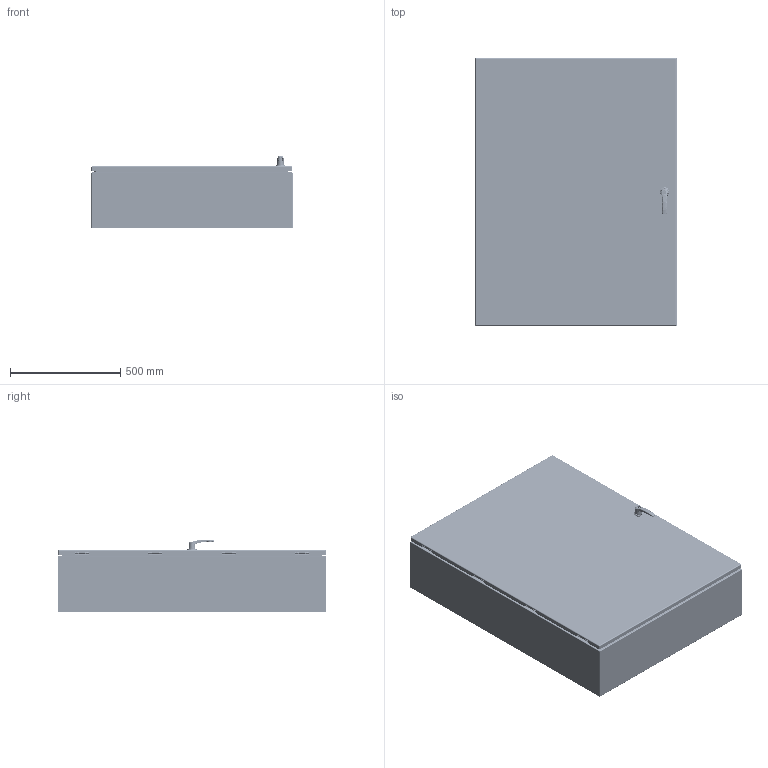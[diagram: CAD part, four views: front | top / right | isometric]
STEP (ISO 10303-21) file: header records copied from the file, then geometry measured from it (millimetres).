
FILE_DESCRIPTION(/* description */ ('5412ES 48" x 36" x 10" Assembly'),/* implementation_level */ '2;1');
FILE_NAME(/* name */ 'C:\Vault_Workspace\Inventor_Dwg\BoxCad\Result\5412ESB483610\e-mail\3D\5412ESB483610.stp',/* time_stamp */ '2022-03-23T15:52:56-04:00',/* author */ ('BoxCad'),/* organization */ (''),/* preprocessor_version */ 'ST-DEVELOPER v18.1',/* originating_system */ 'Autodesk Inventor 2020',/* authorisation */ '');
FILE_SCHEMA (('AUTOMOTIVE_DESIGN { 1 0 10303 214 3 1 1 }'));
Products named in the file (61): 5412ESB483610; 5412ESB483610B; 5412ESB483610B-P; STK-Q-16005; STUD_M6 x 16mm; STK-Q-07610; 881SP4836G; 881SP4836G-P; STK-Q-07310; 5412ESB483610C; 5412ESB483610C-P; 5412ESB483610G; STK-K-09800; STK-K-09800-2; STK-K-09800-3; STK-K-09800-4; STK-Q-33014; STK-Q-90398; STK-Q-40095; STK-Q-63410; STK-Q-16405; STK-Q-46020-48; STK-Q-46025-36-3; STK-Q-07220-1; STK-Q-07220-2; STK-Q-07220-3; STK-Q-07220-4; STK-Q-07220-5; STK-Q-07220-6; STK-Q-07220-7; STK-Q-07220-8; STK-Q-07220-9; STK-Q-07220-10; STK-Q-07220-A; STK-Q-07220-B; STK-Q-16055; STK-Q-46515-1; STK-Q-46515-B; STK-Q-46515-A; STK-P-03820R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
Assembly tree (141 placements, depth 4):
  5412ESB483610
    5412ESB483610B
      5412ESB483610B-P
      STK-Q-16005  x8
      STK-P-03820R
      STUD_M6 x 16mm
    STK-Q-07610  x8
    881SP4836G
      881SP4836G-P
    STK-Q-07310  x8
    5412ESB483610C
      5412ESB483610C-P
      5412ESB483610G
      STK-K-09800
        STK-Q-33014
        STK-Q-90398
        STK-Q-40095  x2
        STK-Q-63410  x2
      STK-K-09800-2
        STK-Q-33014
        STK-Q-90398
        STK-Q-40095  x2
        STK-Q-63410  x2
      STK-K-09800-3
        STK-Q-33014
        STK-Q-90398
        STK-Q-40095  x2
        STK-Q-63410  x2
      STK-K-09800-4
        STK-Q-33014
        STK-Q-90398
        STK-Q-40095  x2
        STK-Q-63410  x2
      STK-Q-16055  x11
      STK-Q-16405  x2
      STK-Q-46020-48  x2
      STK-Q-46025-36-3  x2
      STK-Q-07220-1
        STK-Q-07220-A
        STK-Q-07220-B
      STK-Q-07220-2
        STK-Q-07220-A
        STK-Q-07220-B
      STK-Q-07220-3
        STK-Q-07220-A
        STK-Q-07220-B
      STK-Q-07220-4
        STK-Q-07220-A
        STK-Q-07220-B
      STK-Q-07220-5
        STK-Q-07220-A
        STK-Q-07220-B
      STK-Q-07220-6
        STK-Q-07220-A
        STK-Q-07220-B
      STK-Q-07220-7
        STK-Q-07220-A
        STK-Q-07220-B
      STK-Q-07220-8
        STK-Q-07220-A
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Bounding box: 914.85 x 1219.2 x 330.59 mm (x, y, z)
Volume: 9556565.7 mm3; surface area: 9913350 mm2
Topology: 114 solids, 114 shells, 18555 faces, 50084 edges, 32010 vertices
Faces by surface type: bspline 6962, cylinder 5219, plane 4304, torus 1435, sphere 328, cone 307
Full cylindrical faces by diameter (mm): 0 x1, 0.75 x22, 0.762 x22, 1 x16, 1.1 x16, 1.581 x1, 2.459 x1, 3.2 x8, 4.191 x146, 4.2 x2, 4.5 x11, 4.521 x16, 4.75 x4, 4.85 x32, 4.95 x8, 5 x10, 5.1 x35, 5.105 x13, 5.11 x1, 5.156 x2, 5.6 x4, 5.9 x28, 6.015 x146, 6.65 x8, 6.8 x10, 6.85 x32, 7.3 x4, 7.366 x4, 7.468 x2, 7.5 x2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
Entity records: 216062 total; most frequent: CARTESIAN_POINT 80112, ORIENTED_EDGE 30204, DIRECTION 24011, EDGE_CURVE 15102, VERTEX_POINT 9588, AXIS2_PLACEMENT_3D 8880, EDGE_LOOP 6442, LINE 6251
